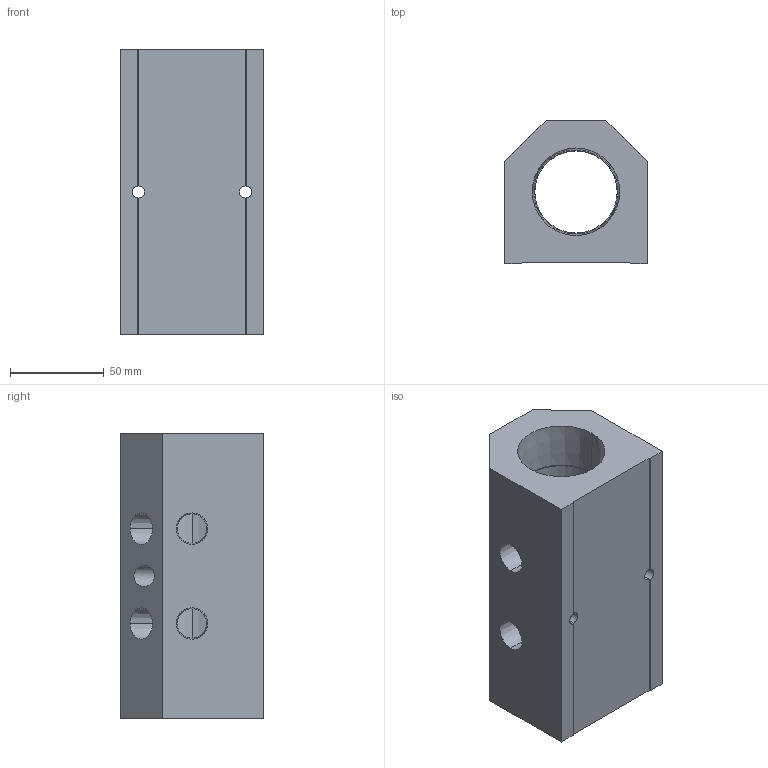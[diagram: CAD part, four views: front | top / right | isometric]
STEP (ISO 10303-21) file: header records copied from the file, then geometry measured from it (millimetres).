
FILE_DESCRIPTION (( 'STEP AP214' ), '1' );
FILE_NAME ('ALM2ABC-N6N24-152B.step', '2022-02-07T09:08:07', ( '' ), ( '' ), 'SwSTEP 2.0', 'SolidWorks 2020', '' );
FILE_SCHEMA (( 'AUTOMOTIVE_DESIGN' ));
Length unit declared in the file: millimetre
Products named in the file (1): ALM2ABC-N6N24-152B
Bounding box: 76.2 x 76.2 x 152 mm (x, y, z)
Volume: 539791.5 mm3; surface area: 76432.3 mm2
Topology: 1 solids, 1 shells, 309 faces, 817 edges, 542 vertices
Faces by surface type: plane 216, bspline 67, cone 16, cylinder 10
Entity records: 17271 total; most frequent: CARTESIAN_POINT 7012, ORIENTED_EDGE 1634, DIRECTION 1185, EDGE_CURVE 817, LINE 627, VECTOR 627, VERTEX_POINT 542, EDGE_LOOP 359
